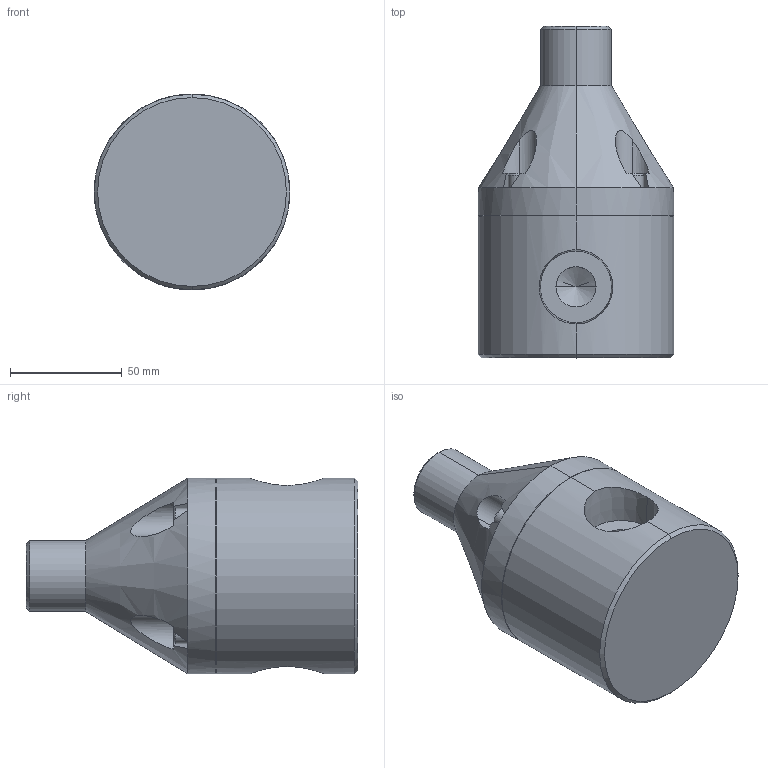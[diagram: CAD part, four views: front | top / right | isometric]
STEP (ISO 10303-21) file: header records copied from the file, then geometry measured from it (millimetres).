
FILE_DESCRIPTION (( 'STEP AP203' ), '1' );
FILE_NAME ('GBP1000-BSPT.STEP', '2015-04-27T10:02:49', ( 'Dan Bernard' ), ( '' ), 'SwSTEP 2.0', 'SolidWorks 2008', '' );
FILE_SCHEMA (( 'CONFIG_CONTROL_DESIGN' ));
Length unit declared in the file: inch
Products named in the file (1): GBP1000-BSPT
Bounding box: 87.63 x 148.59 x 87.63 mm (x, y, z)
Volume: 572972.3 mm3; surface area: 53904.5 mm2
Topology: 1 solids, 1 shells, 127 faces, 306 edges, 192 vertices
Faces by surface type: plane 71, cylinder 28, cone 28
Entity records: 4139 total; most frequent: CARTESIAN_POINT 1082, DIRECTION 628, ORIENTED_EDGE 604, EDGE_CURVE 302, AXIS2_PLACEMENT_3D 220, VERTEX_POINT 192, LINE 188, VECTOR 188
